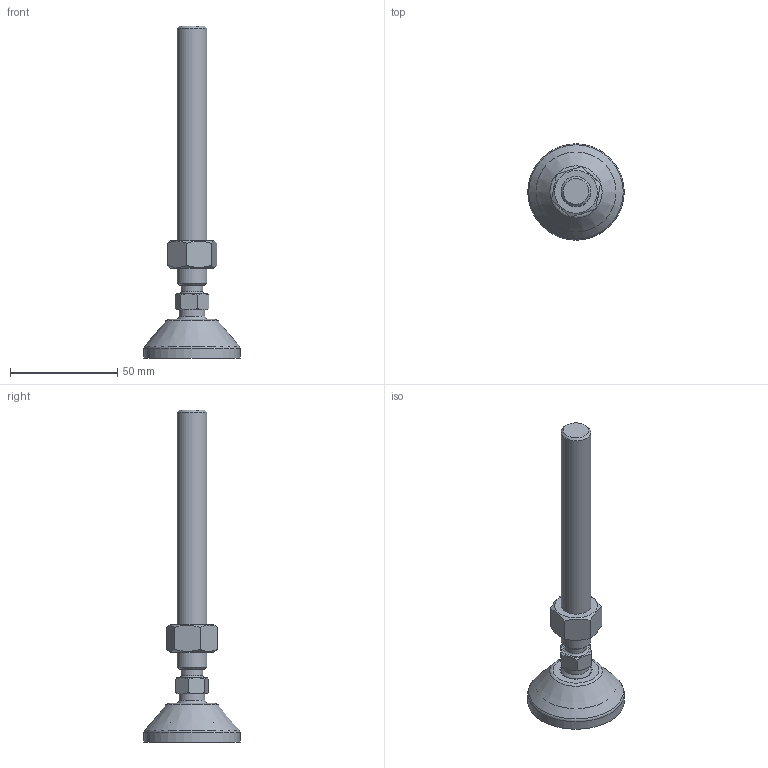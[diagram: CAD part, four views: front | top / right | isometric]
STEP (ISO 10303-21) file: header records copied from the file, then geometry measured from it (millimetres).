
FILE_DESCRIPTION(('STEP AP203'), '1');
FILE_NAME('栖闉罻', '', ('UNSPECIFIED'), ('UNSPECIFIED'), 'C3D Converter', 'C3D Toolkit', '');
FILE_SCHEMA(('CONFIG_CONTROL_DESIGN'));
Length unit declared in the file: millimetre
Products named in the file (4): A00015.1045; A00020.114125
Assembly tree (3 placements, depth 3):
  (unnamed)
    A00015.1045
    A00020.114125
      (unnamed)
Bounding box: 45 x 45 x 155 mm (x, y, z)
Volume: 37522.3 mm3; surface area: 15236.8 mm2
Topology: 3 solids, 3 shells, 141 faces, 380 edges, 250 vertices
Faces by surface type: plane 79, cylinder 26, cone 21, torus 13, sphere 2
Full cylindrical faces by diameter (mm): 10.2 x1, 11.835 x1, 12 x1, 14 x1, 14.3 x1, 15 x2, 15.5 x1, 37.3 x1, 45 x1
Entity records: 7819 total; most frequent: CARTESIAN_POINT 3055, DIRECTION 716, ORIENTED_EDGE 706, EDGE_CURVE 353, AXIS2_PLACEMENT_3D 288, VERTEX_POINT 249, EDGE_LOOP 174, FACE_BOUND 150
